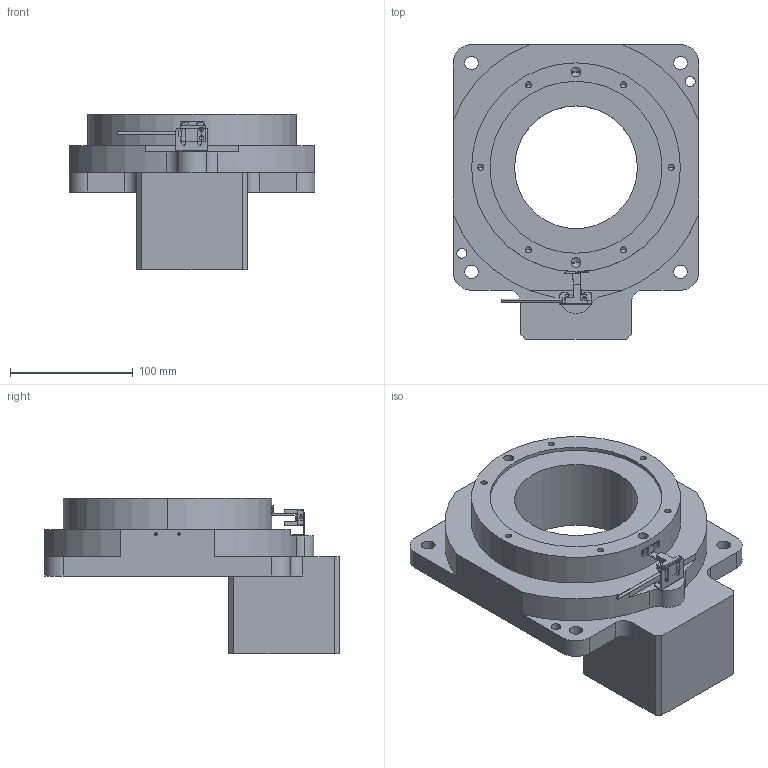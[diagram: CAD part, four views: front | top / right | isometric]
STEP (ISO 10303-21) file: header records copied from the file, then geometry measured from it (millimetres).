
FILE_DESCRIPTION (( 'STEP AP203' ), '1' );
FILE_NAME ('RTN200-18K-14-50-70-M5(¼Ó¸ß63.5).STEP', '2024-05-21T10:29:08', ( '' ), ( '' ), 'SwSTEP 2.0', 'SolidWorks 2023', '' );
FILE_SCHEMA (( 'CONFIG_CONTROL_DESIGN' ));
Length unit declared in the file: millimetre
Products named in the file (1): RTN200-18K-14-50-70-M5(加高63.5)
Bounding box: 200 x 240 x 127 mm (x, y, z)
Volume: 1980344.8 mm3; surface area: 169538 mm2
Topology: 4 solids, 6 shells, 266 faces, 703 edges, 435 vertices
Faces by surface type: cylinder 115, plane 111, cone 40
Entity records: 8079 total; most frequent: DIRECTION 1430, CARTESIAN_POINT 1365, ORIENTED_EDGE 1326, EDGE_CURVE 663, AXIS2_PLACEMENT_3D 500, VERTEX_POINT 435, LINE 430, VECTOR 430
